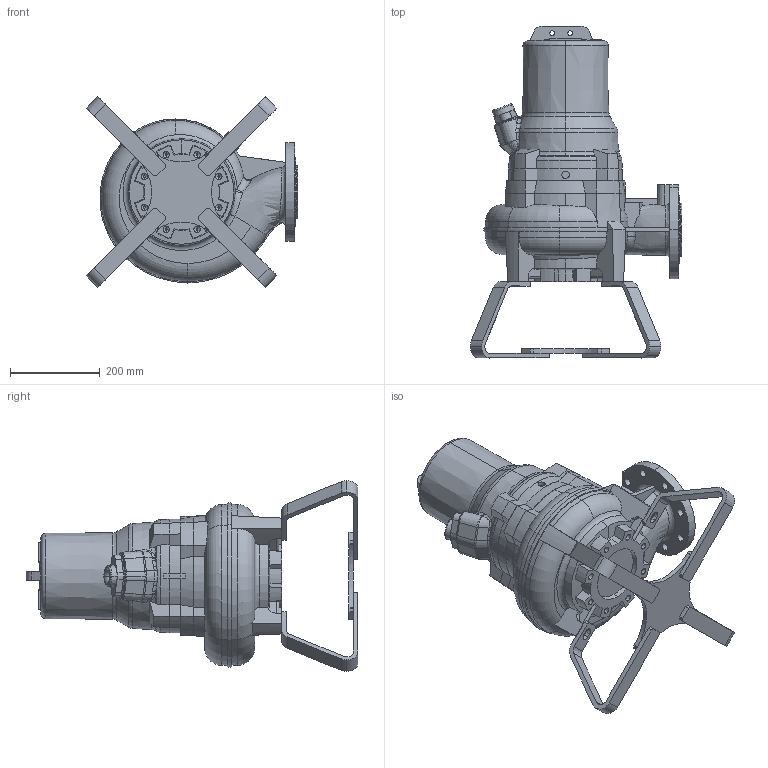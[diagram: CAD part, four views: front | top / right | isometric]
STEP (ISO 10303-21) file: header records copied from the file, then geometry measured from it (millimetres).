
FILE_DESCRIPTION (( 'STEP AP203' ), '1' );
FILE_NAME ('100FWC-M_5,5kW BASE FRAME.STEP', '2025-03-21T10:28:03', ( '' ), ( '' ), 'SwSTEP 2.0', 'SolidWorks 2023', '' );
FILE_SCHEMA (( 'CONFIG_CONTROL_DESIGN' ));
Length unit declared in the file: millimetre
Products named in the file (1): 100FWC-M_5,5kW BASE FRAME
Bounding box: 471.65 x 740 x 425.3 mm (x, y, z)
Volume: 30629318.7 mm3; surface area: 996641 mm2
Topology: 1 solids, 2 shells, 778 faces, 2073 edges, 1325 vertices
Faces by surface type: plane 337, cone 147, cylinder 134, bspline 88, torus 65, sphere 7
Entity records: 30915 total; most frequent: CARTESIAN_POINT 12138, ORIENTED_EDGE 4122, DIRECTION 3688, EDGE_CURVE 2061, AXIS2_PLACEMENT_3D 1419, VERTEX_POINT 1325, LINE 850, VECTOR 850
